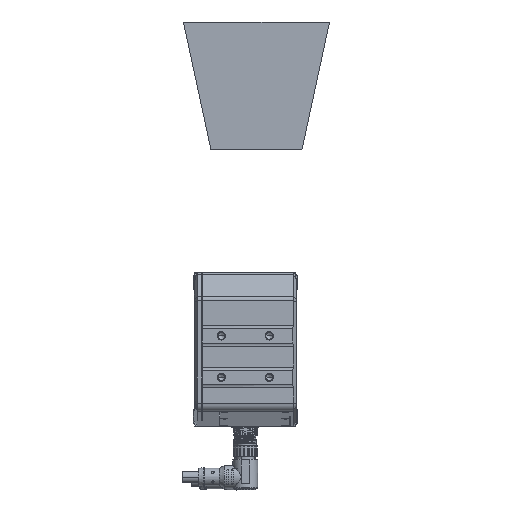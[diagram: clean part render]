
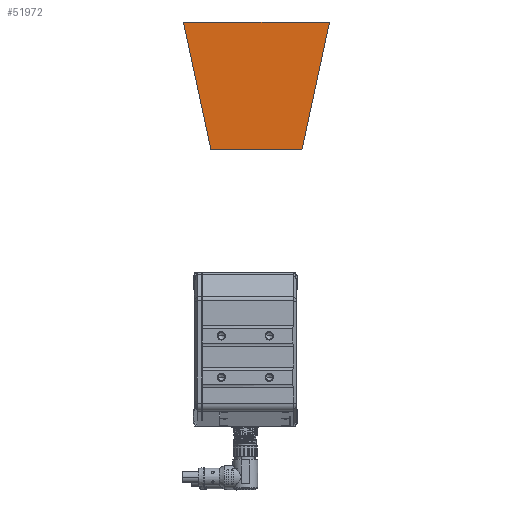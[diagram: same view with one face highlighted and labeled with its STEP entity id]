
A CAD part, left-side view. The second image highlights one B-rep face of the part: STEP entity #51972.
In plain terms, the highlighted planar face has unit normal (-1, 0, 0).
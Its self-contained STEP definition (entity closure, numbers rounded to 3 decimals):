
#51933=DIRECTION('',(0.,0.21,-0.978));
#51934=VECTOR('',#51933,81.828);
#51935=CARTESIAN_POINT('',(0.,-52.7,205.));
#51936=LINE('',#51935,#51934);
#51937=DIRECTION('',(0.,1.,0.));
#51938=VECTOR('',#51937,57.);
#51939=CARTESIAN_POINT('',(0.,-35.5,125.));
#51940=LINE('',#51939,#51938);
#51941=DIRECTION('',(0.,0.21,0.978));
#51942=VECTOR('',#51941,81.828);
#51943=CARTESIAN_POINT('',(0.,21.5,125.));
#51944=LINE('',#51943,#51942);
#51945=DIRECTION('',(0.,-1.,0.));
#51946=VECTOR('',#51945,91.4);
#51947=CARTESIAN_POINT('',(0.,38.7,205.));
#51948=LINE('',#51947,#51946);
#51949=CARTESIAN_POINT('',(0.,-35.5,125.));
#51950=CARTESIAN_POINT('',(0.,-52.7,205.));
#51951=VERTEX_POINT('',#51949);
#51952=VERTEX_POINT('',#51950);
#51953=CARTESIAN_POINT('',(0.,38.7,205.));
#51954=VERTEX_POINT('',#51953);
#51955=CARTESIAN_POINT('',(0.,21.5,125.));
#51956=VERTEX_POINT('',#51955);
#51957=CARTESIAN_POINT('',(0.,-7.,165.));
#51958=DIRECTION('',(1.,0.,0.));
#51959=DIRECTION('',(0.,0.,1.));
#51960=AXIS2_PLACEMENT_3D('',#51957,#51958,#51959);
#51961=PLANE('',#51960);
#51963=ORIENTED_EDGE('',*,*,#51962,.T.);
#51965=ORIENTED_EDGE('',*,*,#51964,.T.);
#51967=ORIENTED_EDGE('',*,*,#51966,.T.);
#51969=ORIENTED_EDGE('',*,*,#51968,.T.);
#51970=EDGE_LOOP('',(#51963,#51965,#51967,#51969));
#51971=FACE_OUTER_BOUND('',#51970,.F.);
#51962=EDGE_CURVE('',#51952,#51951,#51936,.T.);
#51964=EDGE_CURVE('',#51951,#51956,#51940,.T.);
#51966=EDGE_CURVE('',#51956,#51954,#51944,.T.);
#51968=EDGE_CURVE('',#51954,#51952,#51948,.T.);
#51972=ADVANCED_FACE('',(#51971),#51961,.F.);
